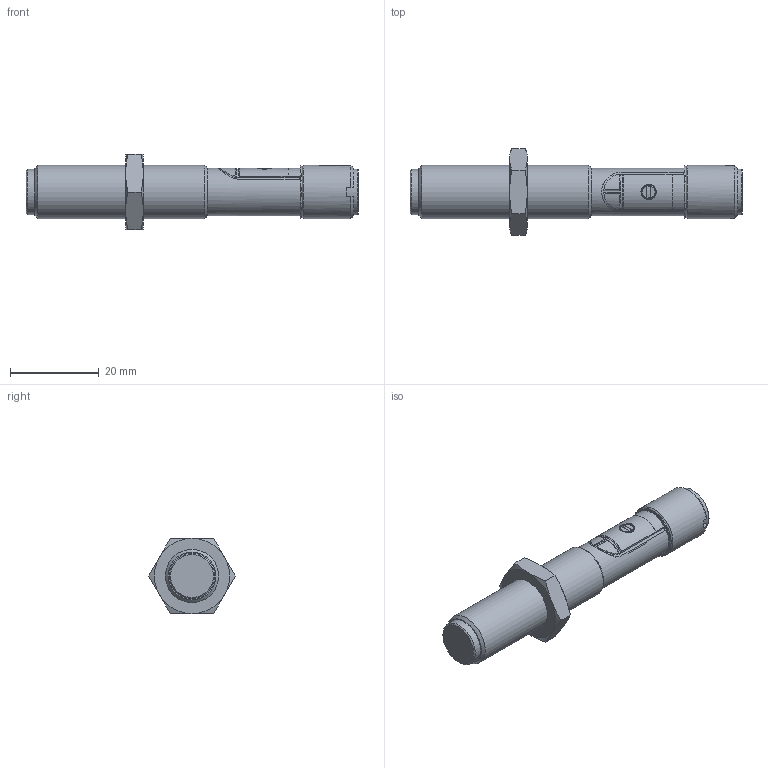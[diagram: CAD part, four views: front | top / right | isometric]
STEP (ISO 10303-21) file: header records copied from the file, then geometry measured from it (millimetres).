
FILE_DESCRIPTION (( 'STEP AP214' ), '1' );
FILE_NAME ('CART-SENSOR.STEP', '2024-10-14T14:52:24', ( '' ), ( '' ), 'SwSTEP 2.0', 'SolidWorks 2024', '' );
FILE_SCHEMA (( 'AUTOMOTIVE_DESIGN' ));
Length unit declared in the file: millimetre
Products named in the file (1): CART-SENSOR
Bounding box: 75 x 19.63 x 17 mm (x, y, z)
Volume: 8015.6 mm3; surface area: 4151.2 mm2
Topology: 2 solids, 2 shells, 157 faces, 387 edges, 247 vertices
Faces by surface type: plane 78, cylinder 48, cone 25, torus 6
Full cylindrical faces by diameter (mm): 1 x4, 3.44 x1, 8.4 x1, 10.3 x1, 10.35 x1, 10.74 x1, 10.917 x1, 11.85 x1, 12 x2
Entity records: 4981 total; most frequent: CARTESIAN_POINT 1382, DIRECTION 742, ORIENTED_EDGE 708, EDGE_CURVE 354, AXIS2_PLACEMENT_3D 292, VERTEX_POINT 241, EDGE_LOOP 199, FACE_OUTER_BOUND 173
